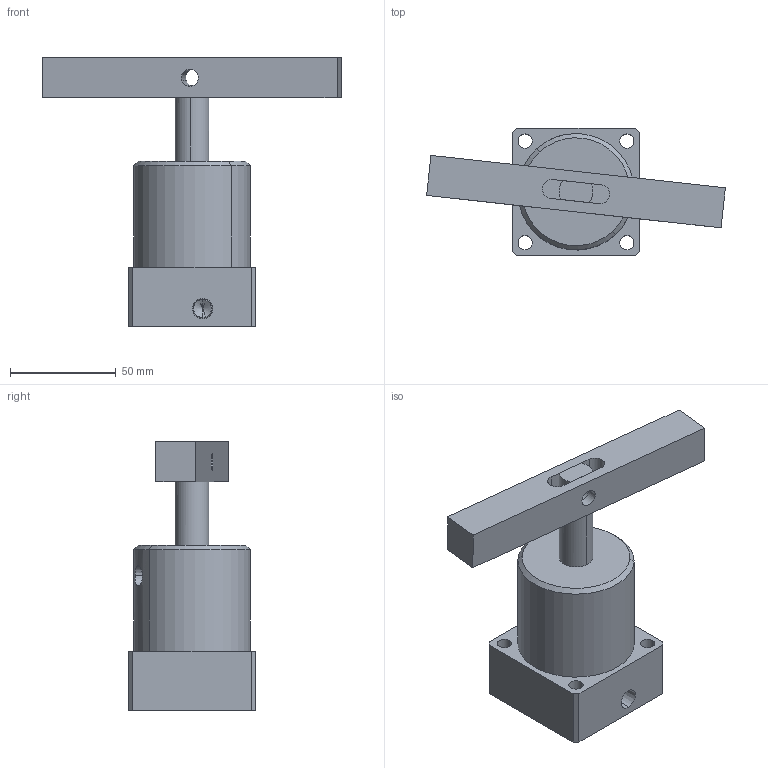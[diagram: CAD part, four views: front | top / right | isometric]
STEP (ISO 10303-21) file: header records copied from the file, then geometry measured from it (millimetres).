
FILE_DESCRIPTION (( 'STEP AP203' ), '1' );
FILE_NAME ('Bridage double clamp ø40.STEP', '2010-02-18T13:56:40', ( 'Christophe Gaillard' ), ( 'SGA' ), 'SwSTEP 2.0', 'SolidWorks 2007', '' );
FILE_SCHEMA (( 'CONFIG_CONTROL_DESIGN' ));
Length unit declared in the file: millimetre
Products named in the file (5): Tige ø40_Défaut; Corps ø40_Défaut; Bridage double clamp ø40; Base ø40_Défaut; Bride ø40_Défaut
Assembly tree (4 placements, depth 2):
  Bridage double clamp ø40
    Tige ø40_Défaut
    Base ø40_Défaut
    Bride ø40_Défaut
    Corps ø40_Défaut
Bounding box: 141.25 x 60 x 127.05 mm (x, y, z)
Volume: 266472.8 mm3; surface area: 51932.5 mm2
Topology: 4 solids, 4 shells, 66 faces, 162 edges, 104 vertices
Faces by surface type: cylinder 28, plane 28, cone 10
Entity records: 2563 total; most frequent: CARTESIAN_POINT 401, DIRECTION 370, ORIENTED_EDGE 316, EDGE_CURVE 158, AXIS2_PLACEMENT_3D 141, VERTEX_POINT 104, EDGE_LOOP 90, LINE 88
